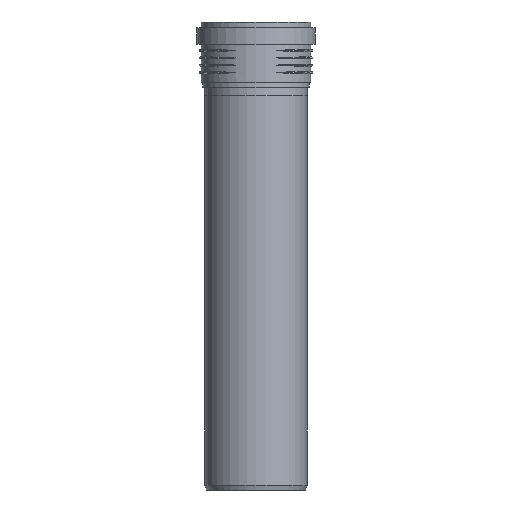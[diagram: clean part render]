
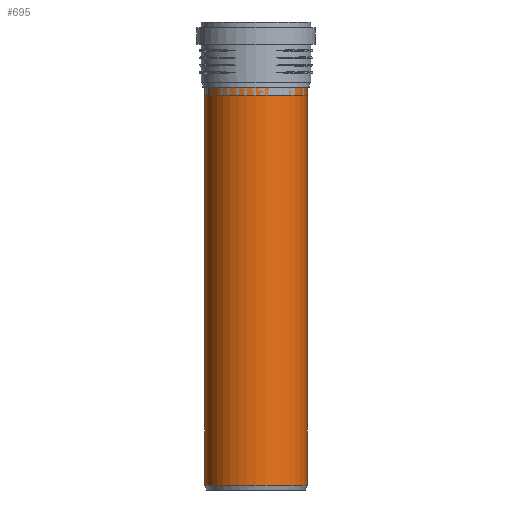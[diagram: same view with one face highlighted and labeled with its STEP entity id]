
A CAD part, left-side view. The second image highlights one B-rep face of the part: STEP entity #695.
In plain terms, the highlighted cylindrical face has radius 62.6 mm (diameter 125.2 mm), a full revolution.
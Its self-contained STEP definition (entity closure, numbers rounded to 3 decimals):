
#94=CYLINDRICAL_SURFACE($,#750,62.6);
#118=FACE_BOUND($,#198,.T.);
#153=FACE_OUTER_BOUND($,#197,.T.);
#197=EDGE_LOOP($,(#472));
#198=EDGE_LOOP($,(#473));
#272=CIRCLE($,#747,62.6);
#274=CIRCLE($,#751,62.6);
#311=VERTEX_POINT($,#1021);
#313=VERTEX_POINT($,#1027);
#382=EDGE_CURVE($,#311,#311,#272,.T.);
#384=EDGE_CURVE($,#313,#313,#274,.T.);
#472=ORIENTED_EDGE($,*,*,#384,.T.);
#473=ORIENTED_EDGE($,*,*,#382,.F.);
#695=ADVANCED_FACE($,(#153,#118),#94,.T.);
#747=AXIS2_PLACEMENT_3D($,#1022,#841,#842);
#750=AXIS2_PLACEMENT_3D($,#1026,#847,#848);
#751=AXIS2_PLACEMENT_3D($,#1028,#849,#850);
#841=DIRECTION('center_axis',(0.,0.,-1.));
#842=DIRECTION('ref_axis',(-1.,0.,0.));
#847=DIRECTION('center_axis',(0.,0.,1.));
#848=DIRECTION('ref_axis',(-1.,0.,0.));
#849=DIRECTION('center_axis',(0.,0.,-1.));
#850=DIRECTION('ref_axis',(-1.,0.,0.));
#1021=CARTESIAN_POINT('',(62.6,0.,-240.9));
#1022=CARTESIAN_POINT('Origin',(0.,0.,-240.9));
#1026=CARTESIAN_POINT('Origin',(0.,0.,0.));
#1027=CARTESIAN_POINT('',(62.6,0.,246.9));
#1028=CARTESIAN_POINT('Origin',(0.,0.,246.9));
